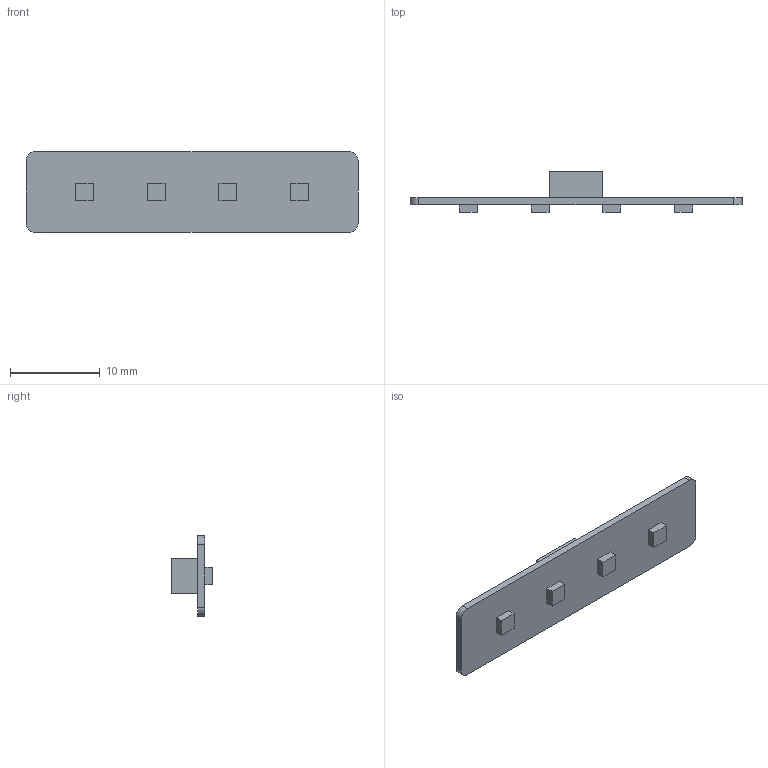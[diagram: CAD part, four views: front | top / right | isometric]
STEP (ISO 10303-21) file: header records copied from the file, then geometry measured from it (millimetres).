
FILE_DESCRIPTION(('Open CASCADE Model'),'2;1');
FILE_NAME('Open CASCADE Shape Model','2026-11-01T16:34:13',('Author'),( 'Open CASCADE'),'Open CASCADE STEP processor 8.0','build123d', 'Unknown');
FILE_SCHEMA(('AUTOMOTIVE_DESIGN { 1 0 10303 214 1 1 1 1 }'));
Length unit declared in the file: millimetre
Products named in the file (1): SOLID
Bounding box: 37 x 4.54 x 9 mm (x, y, z)
Volume: 348.8 mm3; surface area: 821.4 mm2
Topology: 1 solids, 1 shells, 35 faces, 84 edges, 56 vertices
Faces by surface type: plane 31, cylinder 4
Entity records: 2080 total; most frequent: CARTESIAN_POINT 408, DIRECTION 288, LINE 196, VECTOR 196, ORIENTED_EDGE 168, PCURVE 168, DEFINITIONAL_REPRESENTATION 168, EDGE_CURVE 84
